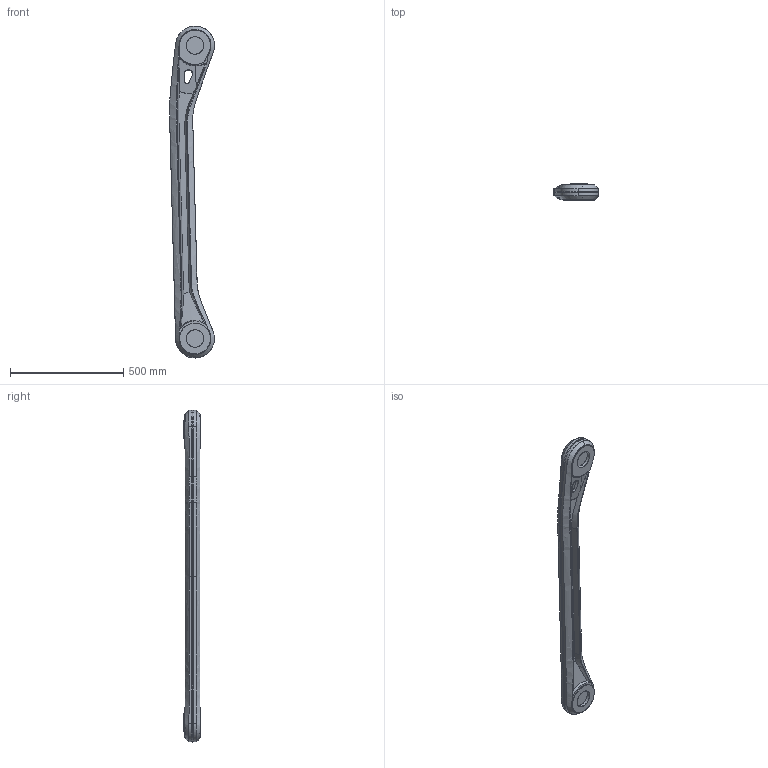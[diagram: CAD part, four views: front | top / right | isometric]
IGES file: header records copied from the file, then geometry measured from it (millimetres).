
Start section: SolidWorks IGES file using analytic representation for surfaces
Global section: file name: C:\Users\SEJAOLS6\OneDrive - ABB\Documents\SAP\7710\7710_Lightweight_models\IRB7710-LID-MH_280kg-350_OC_01_SW_J\IRB7710-LID-MH_280kg-350_OC_01_IGES_J\IRB77X0_All_OC_00_LINKBAR_CAD.igs; native system: SolidWorks 2024; preprocessor: SolidWorks 2024; author: SEJAOLS6; date: 260126.160116; units: millimetre
Bounding box: 198.64 x 75 x 1466.94 mm (x, y, z)
Surface area: 579764.4 mm2 (no closed solid volume)
Topology: 0 solids, 0 shells, 142 faces, 4381 edges, 4381 vertices
Faces by surface type: revolution 74, bspline 68
